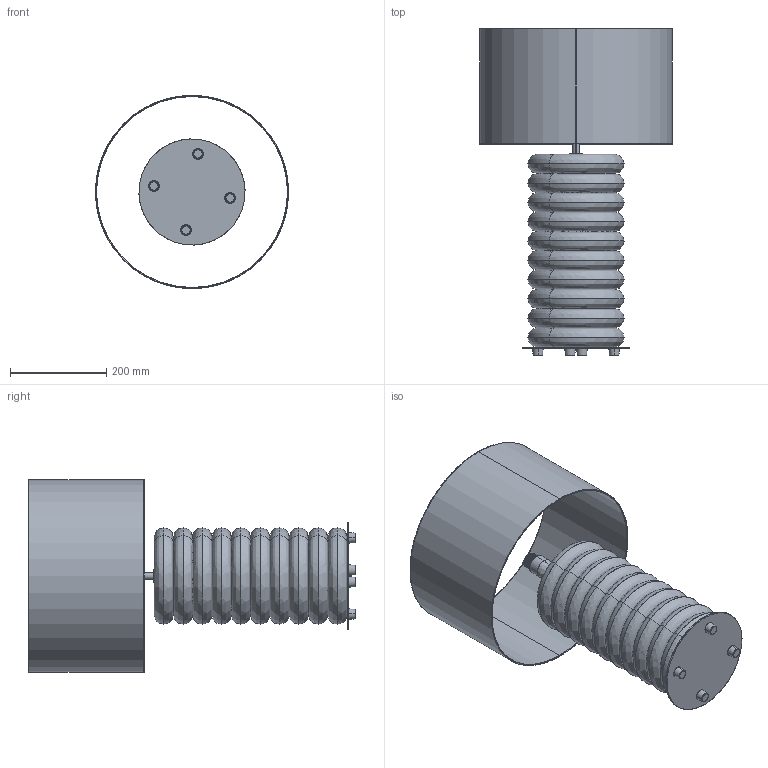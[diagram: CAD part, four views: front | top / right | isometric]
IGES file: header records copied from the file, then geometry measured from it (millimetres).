
Start section: SolidWorks IGES file using analytic representation for surfaces
Global section: file name: C:\Users\Agus\Desktop\Maider\NAC130_onut\ONUT_NAC130-2.IGS; native system: SolidWorks 2018; preprocessor: SolidWorks 2018; author: Agus; date: 231102.091057; units: millimetre
Bounding box: 400 x 679 x 400 mm (x, y, z)
Surface area: 2103045.2 mm2 (no closed solid volume)
Topology: 0 solids, 0 shells, 423 faces, 10079 edges, 10079 vertices
Faces by surface type: bspline 214, revolution 209
